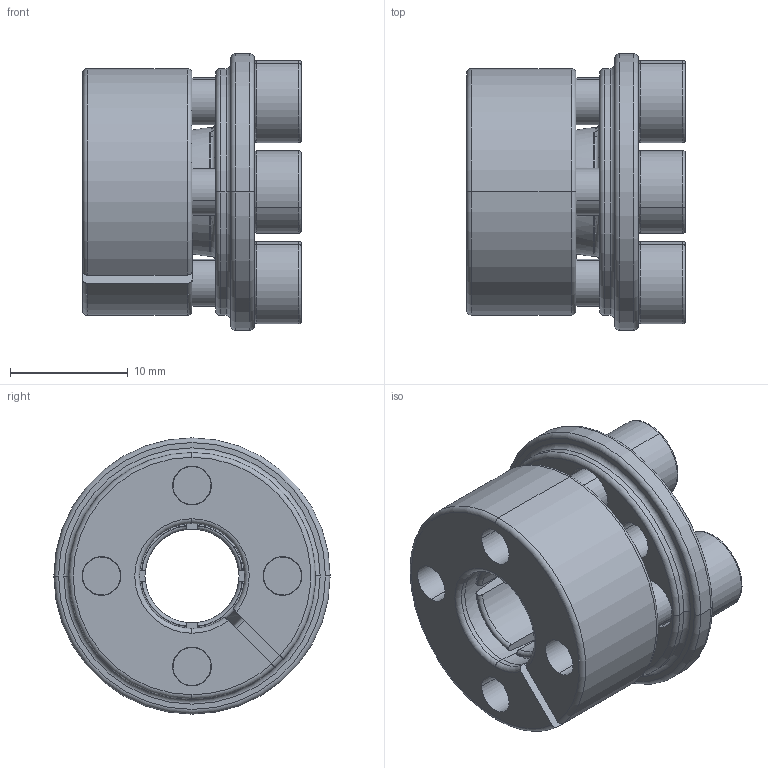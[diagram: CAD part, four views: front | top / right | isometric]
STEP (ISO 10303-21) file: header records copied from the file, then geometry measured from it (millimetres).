
FILE_DESCRIPTION (( 'STEP AP203' ), '1' );
FILE_NAME ('SAPA-08-21-45C.STEP', '2013-01-22T04:50:23', ( '' ), ( '' ), 'SwSTEP 2.0', 'SolidWorks 2012', '' );
FILE_SCHEMA (( 'CONFIG_CONTROL_DESIGN' ));
Length unit declared in the file: millimetre
Products named in the file (1): SAPA-08-21-45C
Bounding box: 18.6 x 23.5 x 23.5 mm (x, y, z)
Volume: 4302.3 mm3; surface area: 3633.3 mm2
Topology: 1 solids, 1 shells, 222 faces, 569 edges, 342 vertices
Faces by surface type: plane 83, cylinder 60, torus 58, cone 21
Entity records: 7017 total; most frequent: CARTESIAN_POINT 1448, DIRECTION 1242, ORIENTED_EDGE 1122, EDGE_CURVE 561, AXIS2_PLACEMENT_3D 516, VERTEX_POINT 342, CIRCLE 293, EDGE_LOOP 245
